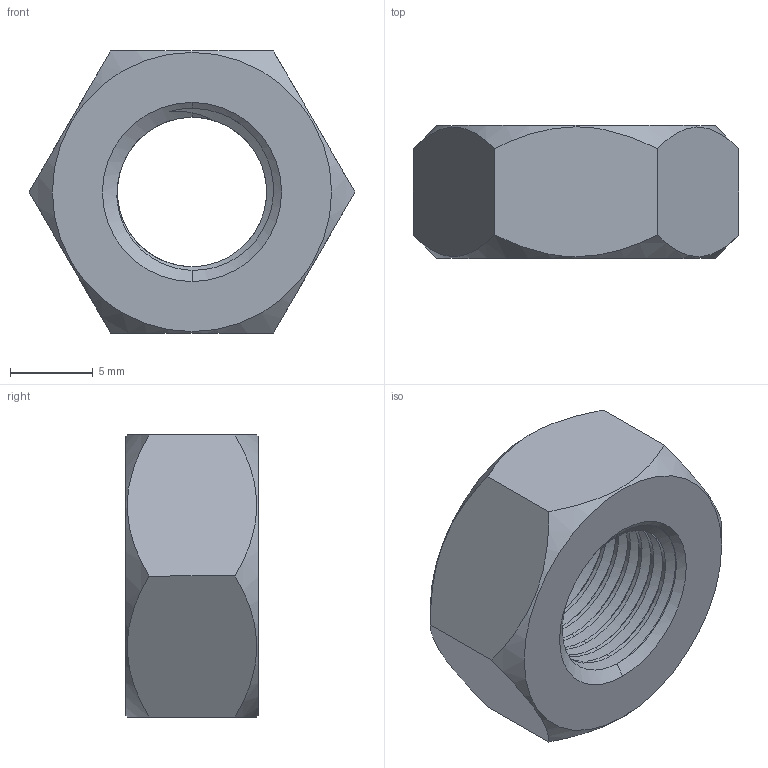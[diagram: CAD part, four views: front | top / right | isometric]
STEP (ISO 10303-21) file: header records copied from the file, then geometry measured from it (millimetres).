
FILE_DESCRIPTION (( 'STEP AP203' ), '1' );
FILE_NAME ('TANRM-304-M10x1.STEP', '2026-08-21T14:22:32', ( '' ), ( '' ), 'SwSTEP 2.0', 'SolidWorks 2020', '' );
FILE_SCHEMA (( 'CONFIG_CONTROL_DESIGN' ));
Length unit declared in the file: millimetre
Products named in the file (1): TANRM-304-M10x1
Bounding box: 19.63 x 8 x 17 mm (x, y, z)
Volume: 1404.6 mm3; surface area: 1141.8 mm2
Topology: 1 solids, 1 shells, 36 faces, 100 edges, 66 vertices
Faces by surface type: cylinder 15, cone 10, plane 8, bspline 3
Entity records: 2954 total; most frequent: CARTESIAN_POINT 2094, ORIENTED_EDGE 200, DIRECTION 122, EDGE_CURVE 100, VERTEX_POINT 66, AXIS2_PLACEMENT_3D 46, EDGE_LOOP 38, FACE_OUTER_BOUND 36
